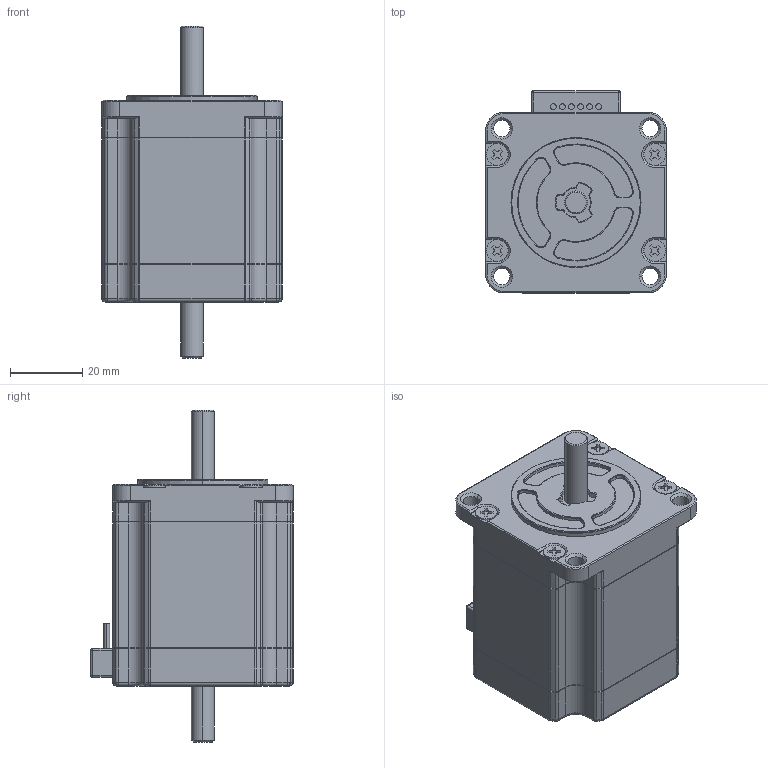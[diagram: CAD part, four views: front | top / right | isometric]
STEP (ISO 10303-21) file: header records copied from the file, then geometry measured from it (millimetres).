
FILE_DESCRIPTION (( 'STEP AP203' ), '1' );
FILE_NAME ('103H6704-0410.STEP', '2013-12-27T02:53:32', ( ' ' ), ( '' ), 'SwSTEP 2.0', 'SolidWorks 2012', '' );
FILE_SCHEMA (( 'CONFIG_CONTROL_DESIGN' ));
Length unit declared in the file: millimetre
Products named in the file (1): 103H6704-0410
Bounding box: 50 x 56 x 91.9 mm (x, y, z)
Volume: 127777.2 mm3; surface area: 17285.4 mm2
Topology: 1 solids, 1 shells, 611 faces, 1503 edges, 913 vertices
Faces by surface type: plane 221, cylinder 209, cone 113, torus 36, sphere 20, bspline 12
Entity records: 18322 total; most frequent: CARTESIAN_POINT 3655, DIRECTION 3212, ORIENTED_EDGE 2982, EDGE_CURVE 1491, AXIS2_PLACEMENT_3D 1209, VERTEX_POINT 913, VECTOR 794, LINE 794
